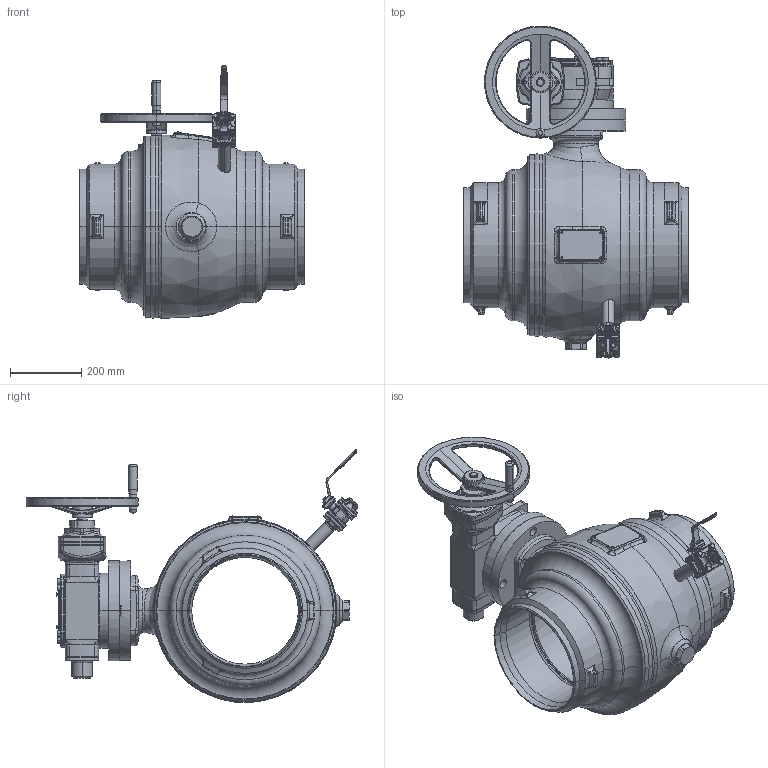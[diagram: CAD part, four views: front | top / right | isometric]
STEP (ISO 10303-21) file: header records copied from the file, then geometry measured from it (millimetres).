
FILE_DESCRIPTION((''),'2;1');
FILE_NAME('ASM0002_ASM','2026-01-28T10:41:32',('schwaba'),('KLINGER'),'CREO PARAMETRIC BY PTC INC, 2023014','CREO PARAMETRIC BY PTC INC, 2023014','');
FILE_SCHEMA(('CONFIG_CONTROL_DESIGN'));
Length unit declared in the file: millimetre
Products named in the file (3): KHSVI_300_FR_WE_ENTL; GS100_F16_AHR315_DN300; ASM0002_ASM
Assembly tree (2 placements, depth 2):
  ASM0002_ASM
    KHSVI_300_FR_WE_ENTL
    GS100_F16_AHR315_DN300
Bounding box: 635 x 932.88 x 711.38 mm (x, y, z)
Volume: 42820656.4 mm3; surface area: 4401601.8 mm2
Topology: 6 solids, 6 shells, 4200 faces, 9899 edges, 5851 vertices
Faces by surface type: plane 1234, cylinder 1021, torus 701, bspline 645, cone 509, sphere 69, revolution 16, extrusion 5
Entity records: 231552 total; most frequent: CARTESIAN_POINT 138690, ORIENTED_EDGE 19718, DIRECTION 19434, EDGE_CURVE 9859, AXIS2_PLACEMENT_3D 8254, VERTEX_POINT 5851, CIRCLE 4712, EDGE_LOOP 4486
